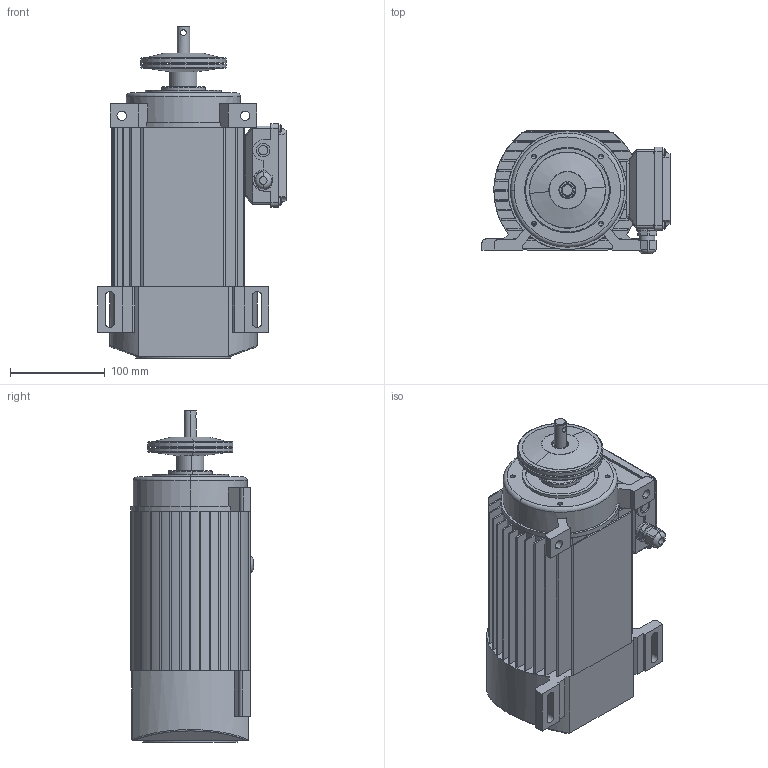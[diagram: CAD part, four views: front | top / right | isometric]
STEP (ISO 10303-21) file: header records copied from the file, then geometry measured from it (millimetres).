
FILE_DESCRIPTION (( 'STEP AP214' ), '1' );
FILE_NAME ('KSD_63B2.STEP', '2014-09-25T13:46:54', ( '' ), ( '' ), 'SwSTEP 2.0', 'SolidWorks 2012', '' );
FILE_SCHEMA (( 'AUTOMOTIVE_DESIGN' ));
Length unit declared in the file: millimetre
Products named in the file (6): Klemmenkasten_MS56; Klemmenscheibe_D90; B_Lagerschild_63B2; A_Lagerschild_63B2; KSD_63B2_Stator; KSD_63B2
Assembly tree (5 placements, depth 2):
  KSD_63B2
    KSD_63B2_Stator
    A_Lagerschild_63B2
    B_Lagerschild_63B2
    Klemmenscheibe_D90
    Klemmenkasten_MS56
Bounding box: 198 x 129.6 x 349.5 mm (x, y, z)
Volume: 2152926.4 mm3; surface area: 490124.2 mm2
Topology: 6 solids, 10 shells, 680 faces, 1774 edges, 1131 vertices
Faces by surface type: plane 375, cylinder 243, cone 30, torus 18, bspline 14
Entity records: 21667 total; most frequent: CARTESIAN_POINT 4549, DIRECTION 3541, ORIENTED_EDGE 3516, EDGE_CURVE 1758, AXIS2_PLACEMENT_3D 1247, VERTEX_POINT 1131, LINE 1047, VECTOR 1047
